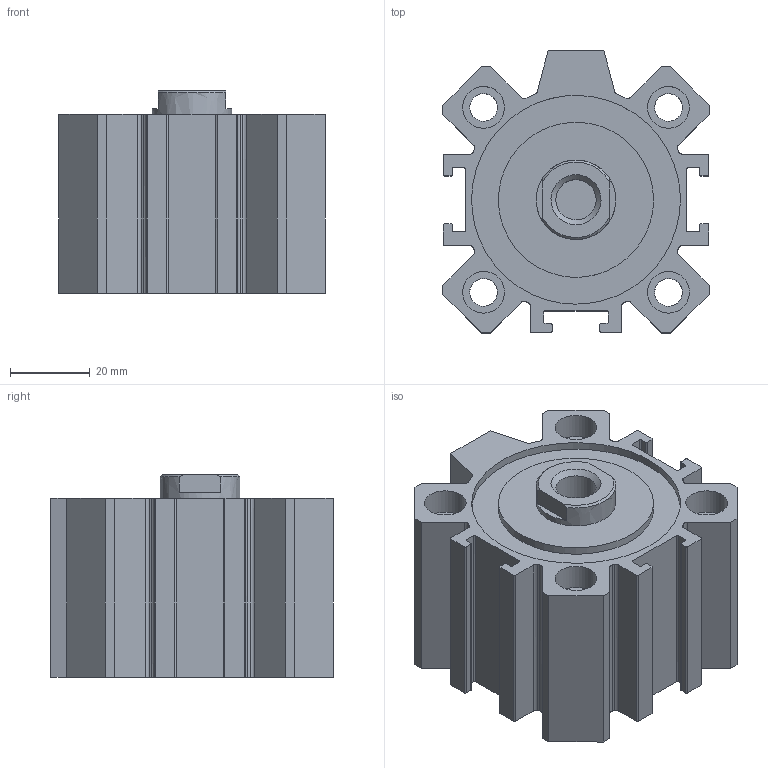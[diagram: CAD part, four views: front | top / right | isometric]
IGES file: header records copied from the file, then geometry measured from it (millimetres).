
Global section: file name: 1512_50_0010; native system: Autodesk Inventor 2014; preprocessor: unknown; author: A. Manieri; date: 20160824.134116; units: millimetre
Bounding box: 67 x 71 x 51 mm (x, y, z)
Volume: 136240.3 mm3; surface area: 46325.9 mm2
Topology: 2 solids, 2 shells, 164 faces, 438 edges, 296 vertices
Faces by surface type: bspline 164
